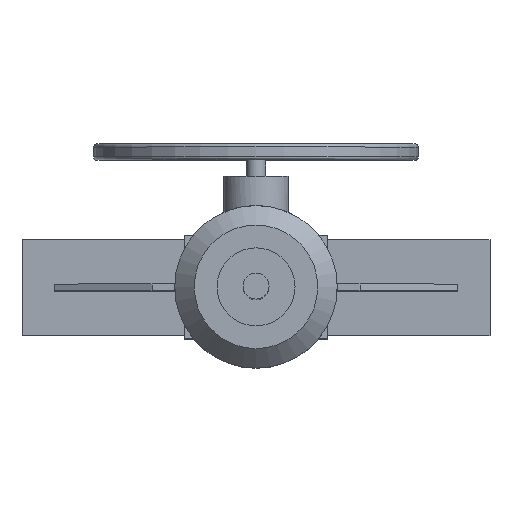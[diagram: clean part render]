
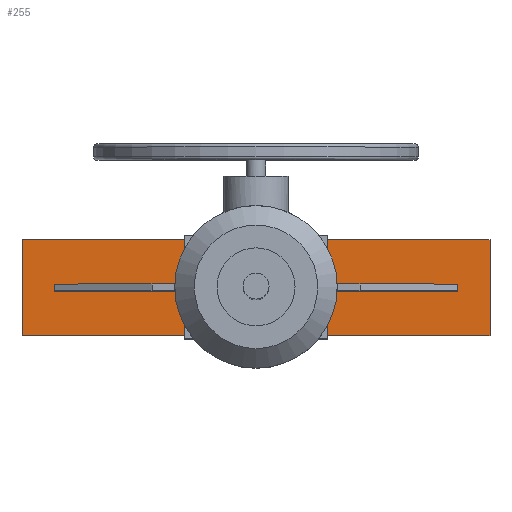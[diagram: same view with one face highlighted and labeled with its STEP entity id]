
A CAD part, top view. The second image highlights one B-rep face of the part: STEP entity #255.
In plain terms, the highlighted planar face has unit normal (0, 0, 1).
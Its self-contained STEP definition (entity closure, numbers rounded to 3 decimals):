
#255=ADVANCED_FACE('',(#2450,#2452),#2454,.T.);
#2450=FACE_BOUND('',#2451,.T.);
#2451=EDGE_LOOP('',(#4318,#4319,#4320,#4321,#4322,#4323,#4324,#4325));
#2452=FACE_BOUND('',#2453,.T.);
#2453=EDGE_LOOP('',(#4326,#4327,#4328,#4329));
#2454=PLANE('',#2455);
#2455=AXIS2_PLACEMENT_3D('',#2456,#2457,#2458);
#2456=CARTESIAN_POINT('',(0.,0.,550.));
#2457=DIRECTION('',(0.,0.,1.));
#2458=DIRECTION('',(1.,0.,0.));
#4318=ORIENTED_EDGE('',*,*,#5354,.F.);
#4319=ORIENTED_EDGE('',*,*,#5352,.T.);
#4320=ORIENTED_EDGE('',*,*,#5361,.T.);
#4321=ORIENTED_EDGE('',*,*,#5343,.T.);
#4322=ORIENTED_EDGE('',*,*,#5357,.F.);
#4323=ORIENTED_EDGE('',*,*,#5347,.T.);
#4324=ORIENTED_EDGE('',*,*,#5362,.T.);
#4325=ORIENTED_EDGE('',*,*,#5348,.T.);
#4326=ORIENTED_EDGE('',*,*,#5363,.F.);
#4327=ORIENTED_EDGE('',*,*,#5364,.F.);
#4328=ORIENTED_EDGE('',*,*,#5365,.F.);
#4329=ORIENTED_EDGE('',*,*,#5366,.F.);
#5343=EDGE_CURVE('',#5917,#5885,#5918,.T.);
#5347=EDGE_CURVE('',#5901,#5923,#5925,.T.);
#5348=EDGE_CURVE('',#5926,#5907,#5927,.T.);
#5352=EDGE_CURVE('',#5891,#5932,#5934,.T.);
#5354=EDGE_CURVE('',#5891,#5907,#5936,.T.);
#5357=EDGE_CURVE('',#5901,#5885,#5940,.T.);
#5361=EDGE_CURVE('',#5932,#5917,#5947,.T.);
#5362=EDGE_CURVE('',#5923,#5926,#5948,.T.);
#5363=EDGE_CURVE('',#5949,#5950,#5951,.T.);
#5364=EDGE_CURVE('',#5952,#5949,#5953,.F.);
#5365=EDGE_CURVE('',#5954,#5952,#5955,.T.);
#5366=EDGE_CURVE('',#5950,#5954,#5956,.T.);
#5885=VERTEX_POINT('',#6873);
#5891=VERTEX_POINT('',#6885);
#5901=VERTEX_POINT('',#6907);
#5907=VERTEX_POINT('',#6919);
#5917=VERTEX_POINT('',#6943);
#5918=LINE('',#6944,#6945);
#5923=VERTEX_POINT('',#6955);
#5925=LINE('',#6959,#6960);
#5926=VERTEX_POINT('',#6962);
#5927=LINE('',#6963,#6964);
#5932=VERTEX_POINT('',#6974);
#5934=LINE('',#6978,#6979);
#5936=LINE('',#6984,#6985);
#5940=LINE('',#6995,#6996);
#5947=LINE('',#7163,#7164);
#5948=LINE('',#7166,#7167);
#5949=VERTEX_POINT('',#7169);
#5950=VERTEX_POINT('',#7170);
#5951=LINE('',#7171,#7172);
#5952=VERTEX_POINT('',#7174);
#5953=LINE('',#7175,#7176);
#5954=VERTEX_POINT('',#7178);
#5955=LINE('',#7179,#7180);
#5956=LINE('',#7182,#7183);
#6873=CARTESIAN_POINT('',(110.,74.,550.));
#6885=CARTESIAN_POINT('',(110.,-74.,550.));
#6907=CARTESIAN_POINT('',(-110.,74.,550.));
#6919=CARTESIAN_POINT('',(-110.,-74.,550.));
#6943=CARTESIAN_POINT('',(360.,74.,550.));
#6944=CARTESIAN_POINT('',(360.,74.,550.));
#6945=VECTOR('',#6946,1.);
#6946=DIRECTION('',(-1.,0.,0.));
#6955=CARTESIAN_POINT('',(-360.,74.,550.));
#6959=CARTESIAN_POINT('',(-110.,74.,550.));
#6960=VECTOR('',#6961,1.);
#6961=DIRECTION('',(-1.,0.,0.));
#6962=CARTESIAN_POINT('',(-360.,-74.,550.));
#6963=CARTESIAN_POINT('',(-360.,-74.,550.));
#6964=VECTOR('',#6965,1.);
#6965=DIRECTION('',(1.,0.,0.));
#6974=CARTESIAN_POINT('',(360.,-74.,550.));
#6978=CARTESIAN_POINT('',(110.,-74.,550.));
#6979=VECTOR('',#6980,1.);
#6980=DIRECTION('',(1.,0.,0.));
#6984=CARTESIAN_POINT('',(110.,-74.,550.));
#6985=VECTOR('',#6986,1.);
#6986=DIRECTION('',(-1.,0.,0.));
#6995=CARTESIAN_POINT('',(-110.,74.,550.));
#6996=VECTOR('',#6997,1.);
#6997=DIRECTION('',(1.,0.,0.));
#7163=CARTESIAN_POINT('',(360.,-74.,550.));
#7164=VECTOR('',#7165,1.);
#7165=DIRECTION('',(0.,1.,0.));
#7166=CARTESIAN_POINT('',(-360.,74.,550.));
#7167=VECTOR('',#7168,1.);
#7168=DIRECTION('',(0.,-1.,0.));
#7169=CARTESIAN_POINT('',(-310.,5.,550.));
#7170=CARTESIAN_POINT('',(-310.,-5.,550.));
#7171=CARTESIAN_POINT('',(-310.,5.,550.));
#7172=VECTOR('',#7173,1.);
#7173=DIRECTION('',(0.,-1.,0.));
#7174=CARTESIAN_POINT('',(310.,5.,550.));
#7175=CARTESIAN_POINT('',(-310.,5.,550.));
#7176=VECTOR('',#7177,1.);
#7177=DIRECTION('',(1.,0.,0.));
#7178=CARTESIAN_POINT('',(310.,-5.,550.));
#7179=CARTESIAN_POINT('',(310.,-5.,550.));
#7180=VECTOR('',#7181,1.);
#7181=DIRECTION('',(0.,1.,0.));
#7182=CARTESIAN_POINT('',(-310.,-5.,550.));
#7183=VECTOR('',#7184,1.);
#7184=DIRECTION('',(1.,0.,0.));
